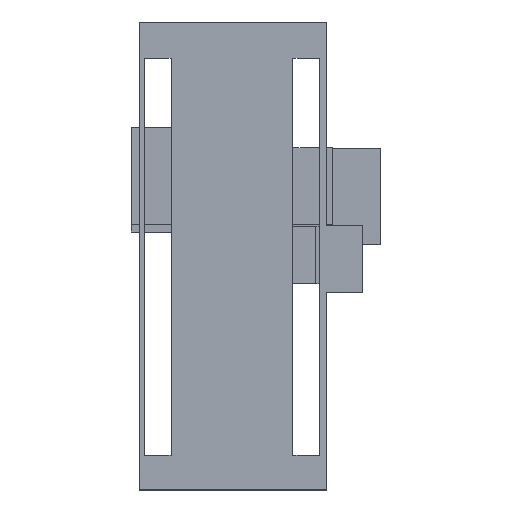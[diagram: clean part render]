
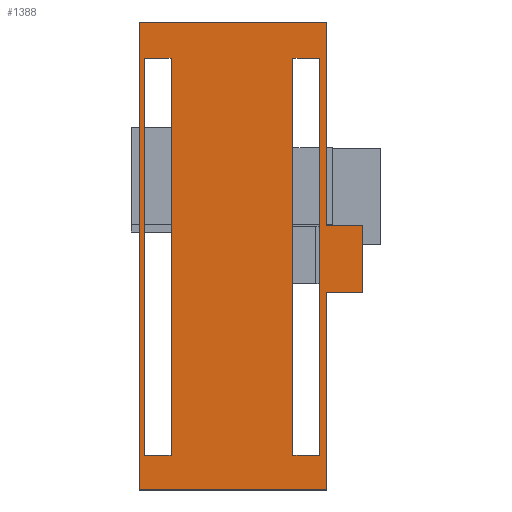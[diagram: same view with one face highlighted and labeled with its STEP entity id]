
A CAD part, top view. The second image highlights one B-rep face of the part: STEP entity #1388.
In plain terms, the highlighted planar face has unit normal (0, 0, 1).
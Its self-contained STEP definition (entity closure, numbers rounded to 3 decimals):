
#1043 = VERTEX_POINT('',#1044);
#1044 = CARTESIAN_POINT('',(-100.82,-34.5,139.9));
#1050 = EDGE_CURVE('',#1051,#1043,#1053,.T.);
#1051 = VERTEX_POINT('',#1052);
#1052 = CARTESIAN_POINT('',(-100.82,-40.,139.9));
#1053 = LINE('',#1054,#1055);
#1054 = CARTESIAN_POINT('',(-100.82,-40.,139.9));
#1055 = VECTOR('',#1056,1.);
#1056 = DIRECTION('',(-0.,1.,0.));
#1370 = VERTEX_POINT('',#1371);
#1371 = CARTESIAN_POINT('',(-103.75,-34.5,139.9));
#1377 = EDGE_CURVE('',#1370,#1043,#1378,.T.);
#1378 = LINE('',#1379,#1380);
#1379 = CARTESIAN_POINT('',(-106.,-34.5,139.9));
#1380 = VECTOR('',#1381,1.);
#1381 = DIRECTION('',(1.,0.,-0.));
#1388 = ADVANCED_FACE('',(#1389,#1439,#1473),#1507,.T.);
#1389 = FACE_BOUND('',#1390,.T.);
#1390 = EDGE_LOOP('',(#1391,#1392,#1393,#1401,#1409,#1417,#1425,#1433));
#1391 = ORIENTED_EDGE('',*,*,#1050,.T.);
#1392 = ORIENTED_EDGE('',*,*,#1377,.F.);
#1393 = ORIENTED_EDGE('',*,*,#1394,.T.);
#1394 = EDGE_CURVE('',#1370,#1395,#1397,.T.);
#1395 = VERTEX_POINT('',#1396);
#1396 = CARTESIAN_POINT('',(-103.75,-18.,139.9));
#1397 = LINE('',#1398,#1399);
#1398 = CARTESIAN_POINT('',(-103.75,-56.,139.9));
#1399 = VECTOR('',#1400,1.);
#1400 = DIRECTION('',(-0.,1.,0.));
#1401 = ORIENTED_EDGE('',*,*,#1402,.F.);
#1402 = EDGE_CURVE('',#1403,#1395,#1405,.T.);
#1403 = VERTEX_POINT('',#1404);
#1404 = CARTESIAN_POINT('',(-119.,-18.,139.9));
#1405 = LINE('',#1406,#1407);
#1406 = CARTESIAN_POINT('',(-119.,-18.,139.9));
#1407 = VECTOR('',#1408,1.);
#1408 = DIRECTION('',(1.,0.,-0.));
#1409 = ORIENTED_EDGE('',*,*,#1410,.F.);
#1410 = EDGE_CURVE('',#1411,#1403,#1413,.T.);
#1411 = VERTEX_POINT('',#1412);
#1412 = CARTESIAN_POINT('',(-119.,-56.,139.9));
#1413 = LINE('',#1414,#1415);
#1414 = CARTESIAN_POINT('',(-119.,-56.,139.9));
#1415 = VECTOR('',#1416,1.);
#1416 = DIRECTION('',(-0.,1.,0.));
#1417 = ORIENTED_EDGE('',*,*,#1418,.T.);
#1418 = EDGE_CURVE('',#1411,#1419,#1421,.T.);
#1419 = VERTEX_POINT('',#1420);
#1420 = CARTESIAN_POINT('',(-103.75,-56.,139.9));
#1421 = LINE('',#1422,#1423);
#1422 = CARTESIAN_POINT('',(-119.,-56.,139.9));
#1423 = VECTOR('',#1424,1.);
#1424 = DIRECTION('',(1.,0.,-0.));
#1425 = ORIENTED_EDGE('',*,*,#1426,.T.);
#1426 = EDGE_CURVE('',#1419,#1427,#1429,.T.);
#1427 = VERTEX_POINT('',#1428);
#1428 = CARTESIAN_POINT('',(-103.75,-40.,139.9));
#1429 = LINE('',#1430,#1431);
#1430 = CARTESIAN_POINT('',(-103.75,-56.,139.9));
#1431 = VECTOR('',#1432,1.);
#1432 = DIRECTION('',(-0.,1.,0.));
#1433 = ORIENTED_EDGE('',*,*,#1434,.T.);
#1434 = EDGE_CURVE('',#1427,#1051,#1435,.T.);
#1435 = LINE('',#1436,#1437);
#1436 = CARTESIAN_POINT('',(-106.,-40.,139.9));
#1437 = VECTOR('',#1438,1.);
#1438 = DIRECTION('',(1.,0.,-0.));
#1439 = FACE_BOUND('',#1440,.T.);
#1440 = EDGE_LOOP('',(#1441,#1451,#1459,#1467));
#1441 = ORIENTED_EDGE('',*,*,#1442,.T.);
#1442 = EDGE_CURVE('',#1443,#1445,#1447,.T.);
#1443 = VERTEX_POINT('',#1444);
#1444 = CARTESIAN_POINT('',(-116.4,-53.2,139.9));
#1445 = VERTEX_POINT('',#1446);
#1446 = CARTESIAN_POINT('',(-118.55,-53.2,139.9));
#1447 = LINE('',#1448,#1449);
#1448 = CARTESIAN_POINT('',(-114.654,-53.2,139.9));
#1449 = VECTOR('',#1450,1.);
#1450 = DIRECTION('',(-1.,-0.,0.));
#1451 = ORIENTED_EDGE('',*,*,#1452,.T.);
#1452 = EDGE_CURVE('',#1445,#1453,#1455,.T.);
#1453 = VERTEX_POINT('',#1454);
#1454 = CARTESIAN_POINT('',(-118.55,-20.95,139.9));
#1455 = LINE('',#1456,#1457);
#1456 = CARTESIAN_POINT('',(-118.55,-45.107,139.9));
#1457 = VECTOR('',#1458,1.);
#1458 = DIRECTION('',(-0.,1.,0.));
#1459 = ORIENTED_EDGE('',*,*,#1460,.F.);
#1460 = EDGE_CURVE('',#1461,#1453,#1463,.T.);
#1461 = VERTEX_POINT('',#1462);
#1462 = CARTESIAN_POINT('',(-116.4,-20.95,139.9));
#1463 = LINE('',#1464,#1465);
#1464 = CARTESIAN_POINT('',(-114.654,-20.95,139.9));
#1465 = VECTOR('',#1466,1.);
#1466 = DIRECTION('',(-1.,-0.,0.));
#1467 = ORIENTED_EDGE('',*,*,#1468,.F.);
#1468 = EDGE_CURVE('',#1443,#1461,#1469,.T.);
#1469 = LINE('',#1470,#1471);
#1470 = CARTESIAN_POINT('',(-116.4,-45.107,139.9));
#1471 = VECTOR('',#1472,1.);
#1472 = DIRECTION('',(-0.,1.,0.));
#1473 = FACE_BOUND('',#1474,.T.);
#1474 = EDGE_LOOP('',(#1475,#1485,#1493,#1501));
#1475 = ORIENTED_EDGE('',*,*,#1476,.T.);
#1476 = EDGE_CURVE('',#1477,#1479,#1481,.T.);
#1477 = VERTEX_POINT('',#1478);
#1478 = CARTESIAN_POINT('',(-104.35,-53.2,139.9));
#1479 = VERTEX_POINT('',#1480);
#1480 = CARTESIAN_POINT('',(-106.5,-53.2,139.9));
#1481 = LINE('',#1482,#1483);
#1482 = CARTESIAN_POINT('',(-108.629,-53.2,139.9));
#1483 = VECTOR('',#1484,1.);
#1484 = DIRECTION('',(-1.,-0.,0.));
#1485 = ORIENTED_EDGE('',*,*,#1486,.T.);
#1486 = EDGE_CURVE('',#1479,#1487,#1489,.T.);
#1487 = VERTEX_POINT('',#1488);
#1488 = CARTESIAN_POINT('',(-106.5,-20.95,139.9));
#1489 = LINE('',#1490,#1491);
#1490 = CARTESIAN_POINT('',(-106.5,-45.107,139.9));
#1491 = VECTOR('',#1492,1.);
#1492 = DIRECTION('',(-0.,1.,0.));
#1493 = ORIENTED_EDGE('',*,*,#1494,.F.);
#1494 = EDGE_CURVE('',#1495,#1487,#1497,.T.);
#1495 = VERTEX_POINT('',#1496);
#1496 = CARTESIAN_POINT('',(-104.35,-20.95,139.9));
#1497 = LINE('',#1498,#1499);
#1498 = CARTESIAN_POINT('',(-108.629,-20.95,139.9));
#1499 = VECTOR('',#1500,1.);
#1500 = DIRECTION('',(-1.,-0.,0.));
#1501 = ORIENTED_EDGE('',*,*,#1502,.F.);
#1502 = EDGE_CURVE('',#1477,#1495,#1503,.T.);
#1503 = LINE('',#1504,#1505);
#1504 = CARTESIAN_POINT('',(-104.35,-45.107,139.9));
#1505 = VECTOR('',#1506,1.);
#1506 = DIRECTION('',(-0.,1.,0.));
#1507 = PLANE('',#1508);
#1508 = AXIS2_PLACEMENT_3D('',#1509,#1510,#1511);
#1509 = CARTESIAN_POINT('',(-110.757,-37.013,139.9));
#1510 = DIRECTION('',(0.,0.,1.));
#1511 = DIRECTION('',(1.,0.,-0.));
